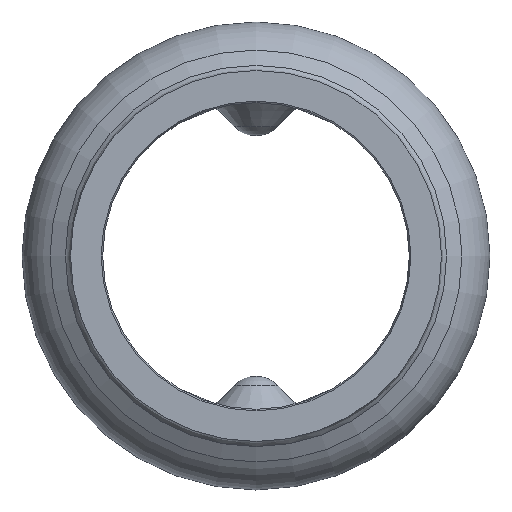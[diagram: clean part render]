
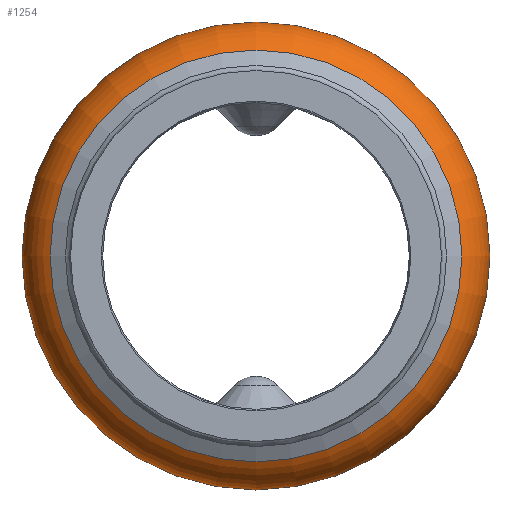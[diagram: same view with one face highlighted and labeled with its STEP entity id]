
A CAD part, left-side view. The second image highlights one B-rep face of the part: STEP entity #1254.
In plain terms, the highlighted toroidal (fillet/blend) face has major radius 8.7 mm and minor radius 2.75 mm.
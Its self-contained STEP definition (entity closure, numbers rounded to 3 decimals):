
#744=CARTESIAN_POINT('',(-14.352,9.44,0.0));
#745=VERTEX_POINT('',#744);
#746=CARTESIAN_POINT('',(-14.352,0.,0.0));
#747=DIRECTION('',(1.0,0.0,0.0));
#748=DIRECTION('',(0.0,-1.0,0.0));
#749=AXIS2_PLACEMENT_3D('',#746,#747,#748);
#750=CIRCLE('',#749,9.44);
#751=EDGE_CURVE('',#745,#745,#750,.T.);
#888=CARTESIAN_POINT('',(-19.382,10.075,0.0));
#889=VERTEX_POINT('',#888);
#890=CARTESIAN_POINT('',(-19.382,0.,0.0));
#891=DIRECTION('',(1.0,0.0,0.0));
#892=DIRECTION('',(0.0,1.0,0.0));
#893=AXIS2_PLACEMENT_3D('',#890,#891,#892);
#894=CIRCLE('',#893,10.075);
#895=EDGE_CURVE('',#889,#889,#894,.T.);
#1243=CARTESIAN_POINT('',(-17.0,0.,0.0));
#1244=DIRECTION('',(1.0,0.,0.0));
#1245=DIRECTION('',(0.0,0.0,-1.0));
#1246=AXIS2_PLACEMENT_3D('',#1243,#1244,#1245);
#1247=TOROIDAL_SURFACE('',#1246,8.7,2.75);
#1248=ORIENTED_EDGE('',*,*,#895,.T.);
#1249=EDGE_LOOP('',(#1248));
#1250=FACE_OUTER_BOUND('',#1249,.T.);
#1251=ORIENTED_EDGE('',*,*,#751,.F.);
#1252=EDGE_LOOP('',(#1251));
#1253=FACE_BOUND('',#1252,.T.);
#1254=ADVANCED_FACE('',(#1250,#1253),#1247,.T.);
